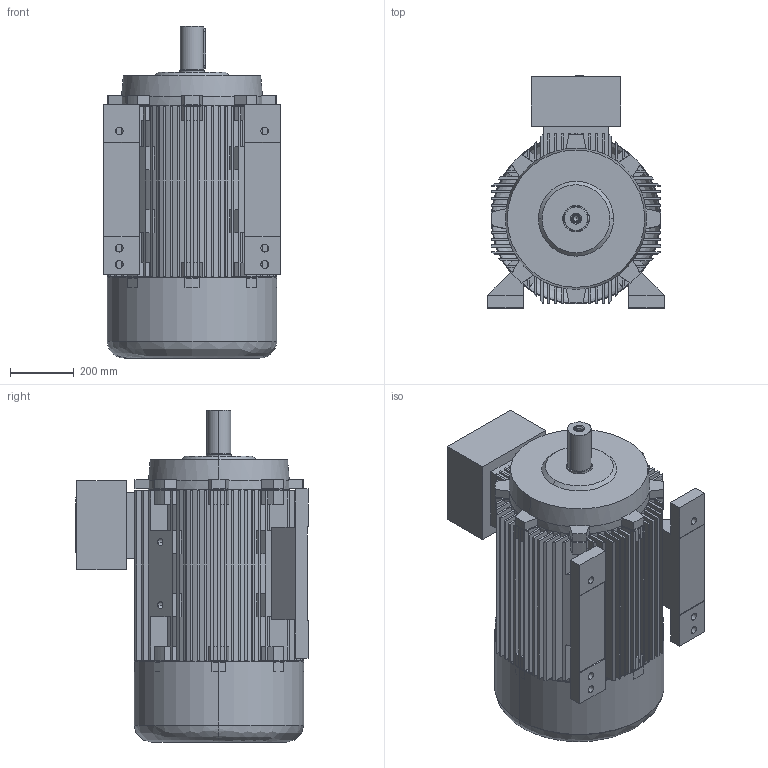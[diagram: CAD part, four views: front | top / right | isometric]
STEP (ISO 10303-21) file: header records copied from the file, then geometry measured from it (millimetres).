
FILE_DESCRIPTION (( 'STEP AP203' ), '1' );
FILE_NAME ('20.18430_A 7AT 280S&M -4, -6, -8 B3 STANDK.STEP', '2018-04-26T07:54:28', ( '' ), ( '' ), 'SwSTEP 2.0', 'SolidWorks 2017', '' );
FILE_SCHEMA (( 'CONFIG_CONTROL_DESIGN' ));
Length unit declared in the file: millimetre
Products named in the file (1): 20.18430_A 7AT 280S&M -4, -6, -8 B3 STANDK
Bounding box: 555 x 729 x 1043 mm (x, y, z)
Volume: 69231264.7 mm3; surface area: 8343950.1 mm2
Topology: 8 solids, 8 shells, 931 faces, 2553 edges, 1683 vertices
Faces by surface type: plane 732, cylinder 148, cone 38, bspline 13
Entity records: 30165 total; most frequent: CARTESIAN_POINT 6075, ORIENTED_EDGE 5070, DIRECTION 4923, EDGE_CURVE 2535, LINE 1869, VECTOR 1869, VERTEX_POINT 1683, AXIS2_PLACEMENT_3D 1527
